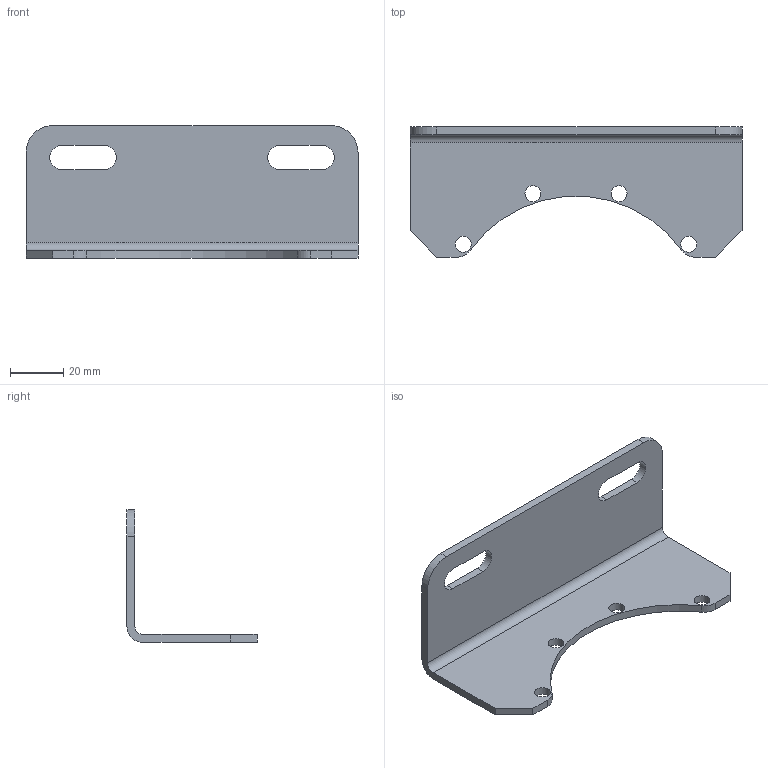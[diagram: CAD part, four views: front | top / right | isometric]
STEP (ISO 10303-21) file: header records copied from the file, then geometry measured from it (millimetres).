
FILE_DESCRIPTION((''),'2;1');
FILE_NAME('F:\AirCom-Produktdokumentation\Befestigungswinkel-Muttern\CAD\CAD AirCom\3D\B-SAR500.stp','2007-06-11T12:18:21',('Frank Schroers'),(''),'Autodesk Inventor 2008','Autodesk Inventor 2008','');
FILE_SCHEMA(('AUTOMOTIVE_DESIGN { 1 0 10303 214 1 1 1 1 }'));
Length unit declared in the file: millimetre
Products named in the file (1): B-SAR500
Bounding box: 125 x 49 x 50 mm (x, y, z)
Volume: 29191.7 mm3; surface area: 21349.1 mm2
Topology: 1 solids, 1 shells, 30 faces, 84 edges, 56 vertices
Faces by surface type: plane 15, cylinder 15
Full cylindrical faces by diameter (mm): 6 x4
Entity records: 1008 total; most frequent: DIRECTION 172, CARTESIAN_POINT 167, ORIENTED_EDGE 160, EDGE_CURVE 80, AXIS2_PLACEMENT_3D 61, VERTEX_POINT 56, VECTOR 50, LINE 50
